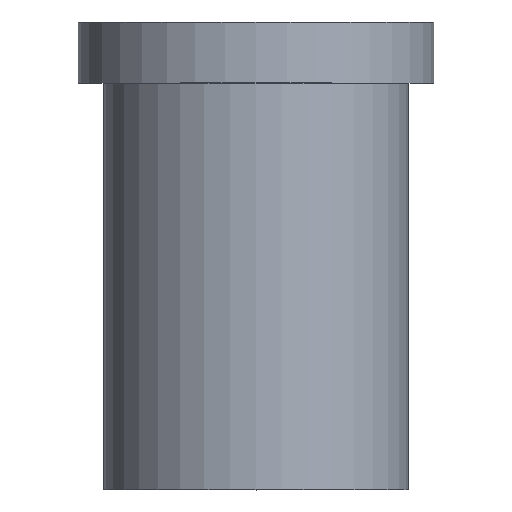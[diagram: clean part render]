
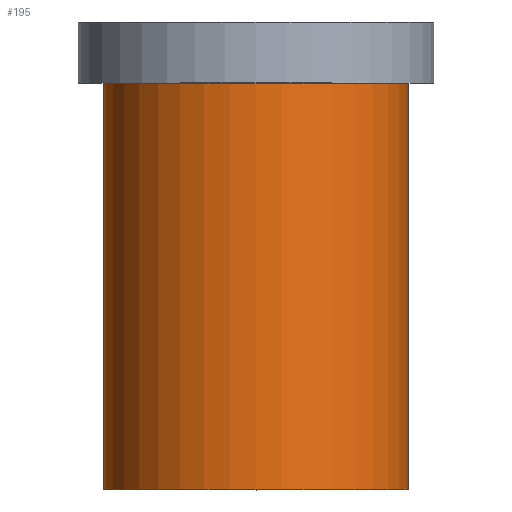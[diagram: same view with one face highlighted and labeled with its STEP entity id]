
A CAD part, top view. The second image highlights one B-rep face of the part: STEP entity #195.
In plain terms, the highlighted cylindrical face has radius 15 mm (diameter 30 mm), a full revolution.
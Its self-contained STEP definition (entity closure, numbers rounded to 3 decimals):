
#32=ORIENTED_EDGE('',*,*,#50,.T.);
#33=ORIENTED_EDGE('',*,*,#49,.F.);
#49=EDGE_CURVE('',#59,#59,#69,.T.);
#50=EDGE_CURVE('',#60,#60,#70,.T.);
#59=VERTEX_POINT('',#280);
#60=VERTEX_POINT('',#283);
#69=CIRCLE('',#213,15.);
#70=CIRCLE('',#215,15.);
#82=EDGE_LOOP('',(#32));
#83=EDGE_LOOP('',(#33));
#102=FACE_BOUND('',#82,.T.);
#103=FACE_BOUND('',#83,.T.);
#117=CYLINDRICAL_SURFACE('',#214,15.);
#195=ADVANCED_FACE('',(#102,#103),#117,.T.);
#213=AXIS2_PLACEMENT_3D('',#279,#241,#242);
#214=AXIS2_PLACEMENT_3D('',#281,#243,#244);
#215=AXIS2_PLACEMENT_3D('',#282,#245,#246);
#241=DIRECTION('',(0.,-1.,0.));
#242=DIRECTION('',(0.,0.,-1.));
#243=DIRECTION('',(0.,-1.,0.));
#244=DIRECTION('',(0.,0.,-1.));
#245=DIRECTION('',(0.,-1.,0.));
#246=DIRECTION('',(0.,0.,-1.));
#279=CARTESIAN_POINT('',(0.,0.,0.));
#280=CARTESIAN_POINT('',(0.,0.,-15.));
#281=CARTESIAN_POINT('',(0.,0.,0.));
#282=CARTESIAN_POINT('',(0.,40.,0.));
#283=CARTESIAN_POINT('',(0.,40.,-15.));
